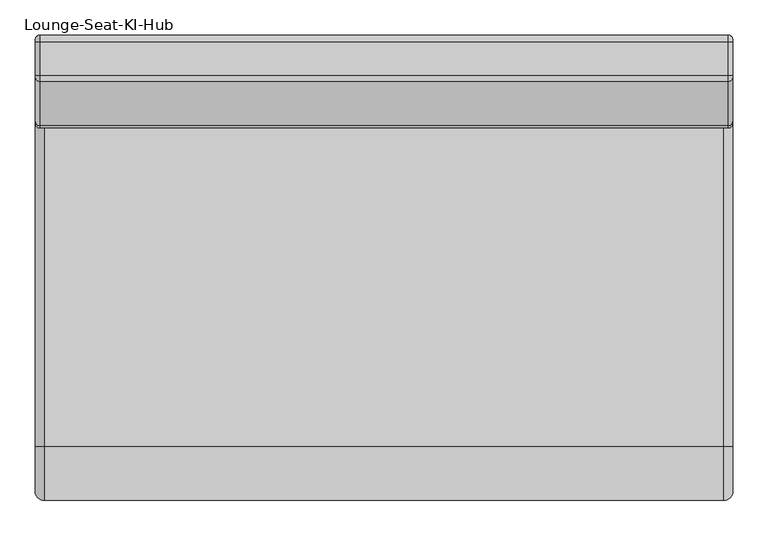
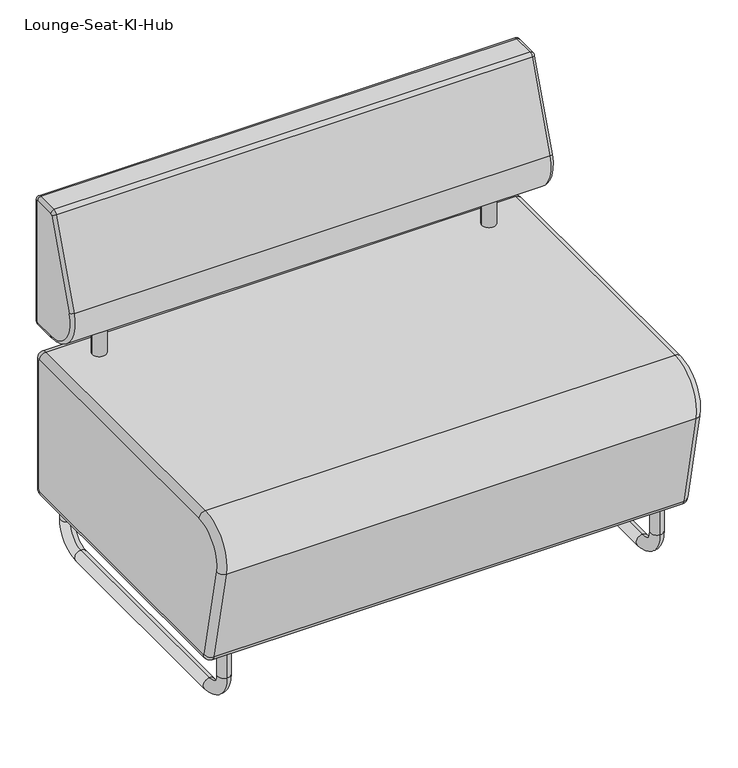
"""IFC4 building model written with IfcOpenShell, lengths in millimetres: furniture geometry."""

import ifcopenshell
import ifcopenshell.guid

model = None  # the IFC model being written
_history = None  # IfcOwnerHistory: only IFC2X3 demands one
_inside = {}  # id of a spatial element -> (the spatial element, [elements in it])
_under = {}  # id of a project, library or spatial element -> (it, [spatial elements below it])
_declared = {}  # id of a project -> (the project, [libraries it declares])
_typed = {}  # id of a type object -> (the type object, [elements of that type])
_made_of = {}  # id of a material, layer set ... -> (it, [elements and type objects made of it])


def new_model(schema):
    """Start an empty IFC model of exactly this schema.

    Asked for "IFC4X3", IfcOpenShell would pick the latest addendum, in which some entities
    have other attributes; the version numbers below select the first issue.
    IFC2X3 requires an IfcOwnerHistory on every rooted entity: one is made here for all.
    """
    global model, _history
    if schema == "IFC4X3":
        model = ifcopenshell.file(schema_version=(4, 3, 0, 0))
    else:
        model = ifcopenshell.file(schema=schema)
    _inside.clear()
    _under.clear()
    _declared.clear()
    _typed.clear()
    _made_of.clear()
    _history = None
    if model.schema == "IFC2X3":
        org = make("IfcOrganization", Name="unknown")
        user = make(
            "IfcPersonAndOrganization",
            ThePerson=make("IfcPerson", FamilyName="unknown"),
            TheOrganization=org,
        )
        app = make(
            "IfcApplication",
            ApplicationDeveloper=org,
            Version="unknown",
            ApplicationFullName="unknown",
            ApplicationIdentifier="unknown",
        )
        _history = make(
            "IfcOwnerHistory",
            OwningUser=user,
            OwningApplication=app,
            ChangeAction="ADDED",
            CreationDate=0,
        )
    return model


def make(cls, **values):
    """One entity of the class cls with the attributes given. An attribute that is None is left unset."""
    return model.create_entity(
        cls, **{name: value for name, value in values.items() if value is not None}
    )


def rooted(cls, **values):
    """An entity with a GlobalId (a new one), such as an element, a storey or a relation."""
    return make(cls, GlobalId=ifcopenshell.guid.new(), OwnerHistory=_history, **values)


def si_unit(unit_type, name, prefix=None):
    """IfcSIUnit, for example si_unit("LENGTHUNIT", "METRE", prefix="MILLI")."""
    return make("IfcSIUnit", UnitType=unit_type, Prefix=prefix, Name=name)


def assignment(units):
    """IfcUnitAssignment: the units of a project."""
    return None if units is None else make("IfcUnitAssignment", Units=units)


def point(xyz):
    """IfcCartesianPoint."""
    return None if xyz is None else make("IfcCartesianPoint", Coordinates=xyz)


def direction(xyz):
    """IfcDirection."""
    return None if xyz is None else make("IfcDirection", DirectionRatios=xyz)


def frame(location, z_axis=None, x_axis=None):
    """IfcAxis2Placement3D, a coordinate frame: its origin and axes. An axis left out is left unset."""
    return make(
        "IfcAxis2Placement3D",
        Location=point(location),
        Axis=direction(z_axis),
        RefDirection=direction(x_axis),
    )


def frame_2d(location, x_axis=None):
    """IfcAxis2Placement2D, a coordinate frame in the plane: its origin and x axis."""
    return make(
        "IfcAxis2Placement2D", Location=point(location), RefDirection=direction(x_axis)
    )


def origin():
    """The frame at (0, 0, 0) with its axes left unset."""
    return frame((0.0, 0.0, 0.0))


def place(relative_to, where):
    """IfcLocalPlacement: puts the frame where relative to a parent placement (None: the world)."""
    return make(
        "IfcLocalPlacement", PlacementRelTo=relative_to, RelativePlacement=where
    )


def context(
    kind, dimensions, precision=None, world=None, true_north=None, identifier=None
):
    """IfcGeometricRepresentationContext, for example the 3D "Model" context."""
    return make(
        "IfcGeometricRepresentationContext",
        ContextIdentifier=identifier,
        ContextType=kind,
        CoordinateSpaceDimension=dimensions,
        Precision=precision,
        WorldCoordinateSystem=world,
        TrueNorth=true_north,
    )


def project(units=None, contexts=None):
    """IfcProject with its units and contexts."""
    return rooted(
        "IfcProject",
        Name="project",
        RepresentationContexts=contexts,
        UnitsInContext=assignment(units),
    )


def spatial(cls, under=None, at=None, **own):
    """A site, building, storey or space (cls), placed at a placement, below another one or the project."""
    s = rooted(cls, ObjectPlacement=at, **own)
    if under is not None:
        _under.setdefault(under.id(), (under, []))[1].append(s)
    return s


def circle_curve(where, radius):
    """IfcCircle in the frame where."""
    return make("IfcCircle", Position=where, Radius=radius)


def ellipse_curve(where, semi_axis1, semi_axis2):
    """IfcEllipse in the frame where."""
    return make(
        "IfcEllipse", Position=where, SemiAxis1=semi_axis1, SemiAxis2=semi_axis2
    )


def trimmed(basis, trim1, trim2, sense, master):
    """IfcTrimmedCurve: the piece of a basis curve between two trims."""
    return make(
        "IfcTrimmedCurve",
        BasisCurve=basis,
        Trim1=trim1,
        Trim2=trim2,
        SenseAgreement=sense,
        MasterRepresentation=master,
    )


def segment(curve, same_sense, transition):
    """IfcCompositeCurveSegment."""
    return make(
        "IfcCompositeCurveSegment",
        Transition=transition,
        SameSense=same_sense,
        ParentCurve=curve,
    )


def composite_curve(segments, self_intersect=None):
    """IfcCompositeCurve: segments joined end to end."""
    return make("IfcCompositeCurve", Segments=segments, SelfIntersect=self_intersect)


def outline(outer, holes=None, kind="AREA"):
    """IfcArbitraryClosedProfileDef: a profile drawn as a closed curve; with holes, ...WithVoids."""
    if holes is None:
        return make("IfcArbitraryClosedProfileDef", ProfileType=kind, OuterCurve=outer)
    return make(
        "IfcArbitraryProfileDefWithVoids",
        ProfileType=kind,
        OuterCurve=outer,
        InnerCurves=holes,
    )


def extrude(swept, where, along, depth):
    """IfcExtrudedAreaSolid: the profile swept, set in the frame where, extruded along a direction by depth."""
    return make(
        "IfcExtrudedAreaSolid",
        SweptArea=swept,
        Position=where,
        ExtrudedDirection=direction(along),
        Depth=depth,
    )


def shape(context_of_items, identifier, shape_type, items):
    """IfcShapeRepresentation: the items that make up one representation, for example the "Body"."""
    return make(
        "IfcShapeRepresentation",
        ContextOfItems=context_of_items,
        RepresentationIdentifier=identifier,
        RepresentationType=shape_type,
        Items=items,
    )


def source(mapping_origin, context_of_items, identifier, shape_type, items):
    """IfcRepresentationMap: a shape defined once, which mapped items show again and again."""
    return make(
        "IfcRepresentationMap",
        MappingOrigin=mapping_origin,
        MappedRepresentation=shape(context_of_items, identifier, shape_type, items),
    )


def transform(
    local_origin,
    x_axis=None,
    y_axis=None,
    z_axis=None,
    scale=None,
    scale2=None,
    scale3=None,
    uniform=True,
):
    """IfcCartesianTransformationOperator3D, or its non-uniform kind. x_axis, y_axis, z_axis: its Axis1, 2, 3."""
    if uniform:
        return make(
            "IfcCartesianTransformationOperator3D",
            Axis1=direction(x_axis),
            Axis2=direction(y_axis),
            LocalOrigin=point(local_origin),
            Scale=scale,
            Axis3=direction(z_axis),
        )
    return make(
        "IfcCartesianTransformationOperator3DnonUniform",
        Axis1=direction(x_axis),
        Axis2=direction(y_axis),
        LocalOrigin=point(local_origin),
        Scale=scale,
        Axis3=direction(z_axis),
        Scale2=scale2,
        Scale3=scale3,
    )


def mapped(mapping_source, mapping_target):
    """IfcMappedItem: shows the shape of a source again, moved by a transform."""
    return make(
        "IfcMappedItem", MappingSource=mapping_source, MappingTarget=mapping_target
    )


def made_of(thing, what):
    """Note that an element or type object is made of a material, layer set ...; save() writes the relation."""
    if what is not None:
        _made_of.setdefault(what.id(), (what, []))[1].append(thing)
    return thing


def element(
    cls,
    number,
    at=None,
    inside=None,
    cuts=None,
    type_object=None,
    material=None,
    context=None,
    identifier="Body",
    shape_type=None,
    held_by="IfcProductDefinitionShape",
    body=None,
    shapes=None,
    **own,
):
    """One element of the class cls, such as IfcWall. Its Tag is "e" and its number.

    at: its placement. inside: the storey or other place that contains it. cuts: it is an
    opening in that element (IfcRelVoidsElement). A single representation is given by context,
    identifier, shape_type and body (its items); several are given by shapes. held_by: the class
    of the entity that holds the representations. save() writes the other relations.
    """
    e = rooted(cls, Tag="e%d" % number, ObjectPlacement=at, **own)
    if body is not None:
        shapes = [shape(context, identifier, shape_type, body)]
    if shapes is not None:
        e.Representation = make(held_by, Representations=shapes)
    if inside is not None:
        _inside.setdefault(inside.id(), (inside, []))[1].append(e)
    if cuts is not None:
        rooted(
            "IfcRelVoidsElement", RelatingBuildingElement=cuts, RelatedOpeningElement=e
        )
    if type_object is not None:
        _typed.setdefault(type_object.id(), (type_object, []))[1].append(e)
    return made_of(e, material)


def aggregate(whole, parts):
    """IfcRelAggregates: a whole, such as a stair, and the parts it consists of."""
    return rooted("IfcRelAggregates", RelatingObject=whole, RelatedObjects=parts)


def save(model, path):
    """Write the relations noted so far, then the file.

    IfcRelAggregates (storeys below a building ...), IfcRelContainedInSpatialStructure (elements
    in a storey), IfcRelDefinesByType, IfcRelAssociatesMaterial and IfcRelDeclares: one each for
    every whole, place, type object, material and project.
    """
    for whole, parts in _under.values():
        aggregate(whole, parts)
    for where, things in _inside.values():
        rooted(
            "IfcRelContainedInSpatialStructure",
            RelatedElements=things,
            RelatingStructure=where,
        )
    for kind, things in _typed.values():
        rooted("IfcRelDefinesByType", RelatedObjects=things, RelatingType=kind)
    for what, things in _made_of.values():
        rooted("IfcRelAssociatesMaterial", RelatedObjects=things, RelatingMaterial=what)
    for by, libraries in _declared.values():
        rooted("IfcRelDeclares", RelatingContext=by, RelatedDefinitions=libraries)
    model.write(path)


def plane_surface(at):
    """IfcPlane: the flat surface through the origin of the frame at, square to its z axis."""
    return make("IfcPlane", Position=at)


def cylinder_surface(at, radius):
    """IfcCylindricalSurface: all points at the distance radius from the z axis of the frame at."""
    return make("IfcCylindricalSurface", Position=at, Radius=radius)


def revolved_surface(curve, axis_point, axis_direction):
    """IfcSurfaceOfRevolution: the curve turned about the line through axis_point along axis_direction."""
    return make(
        "IfcSurfaceOfRevolution",
        SweptCurve=make("IfcArbitraryOpenProfileDef", ProfileType="CURVE", Curve=curve),
        AxisPosition=make("IfcAxis1Placement", Location=point(axis_point), Axis=direction(axis_direction)),
    )


def advanced_brep(points, edges, surfaces, faces):
    """IfcAdvancedBrep: a solid bounded by faces that lie on surfaces and meet in shared edges.

    An edge is (start, end): straight between two places in points (the first is 0);
    or (start, end, curve); or (start, end, curve, False) where it runs against its curve.
    A face is (place in surfaces, loops), or (place, loops, False) where it looks against
    its surface's normal. A loop lists edges by number (the first is 1), with a minus sign
    where the edge is run from its end to its start. The first loop is the outer one.
    """
    corners = [point(p) for p in points]
    vertices = [make("IfcVertexPoint", VertexGeometry=c) for c in corners]
    made = []
    for start, end, *more in edges:
        made.append(
            make(
                "IfcEdgeCurve",
                EdgeStart=vertices[start],
                EdgeEnd=vertices[end],
                EdgeGeometry=more[0] if more else make("IfcPolyline", Points=[corners[start], corners[end]]),
                SameSense=more[1] if len(more) > 1 else True,
            )
        )
    hull = []
    for where, loops, *sense in faces:
        bounds = []
        for j, loop in enumerate(loops):
            ring = [make("IfcOrientedEdge", EdgeElement=made[abs(k) - 1], Orientation=k > 0) for k in loop]
            bounds.append(
                make(
                    "IfcFaceOuterBound" if j == 0 else "IfcFaceBound",
                    Bound=make("IfcEdgeLoop", EdgeList=ring),
                    Orientation=True,
                )
            )
        hull.append(make("IfcAdvancedFace", Bounds=bounds, FaceSurface=surfaces[where], SameSense=sense[0] if sense else True))
    return make("IfcAdvancedBrep", Outer=make("IfcClosedShell", CfsFaces=hull))


def lounge_seat_ki_hub_0f860df9(model_context):
    return source(origin(), model_context, "Body", "SolidModel", [
        extrude(outline(composite_curve([segment(trimmed(circle_curve(frame_2d((400.05, 266.7)), 14.2875), [point((385.7625, 266.7))], [point((414.3375, 266.7))], False, "CARTESIAN"), True, "CONTINUOUS"), segment(trimmed(circle_curve(frame_2d((400.05, 266.7)), 14.2875), [point((414.3375, 266.7))], [point((385.7625, 266.7))], False, "CARTESIAN"), True, "CONTINUOUS")], self_intersect=False)), frame((0.0, 0.0, 431.8), z_axis=(0.0, 0.0, 1.0), x_axis=(1.0, 0.0, 0.0)), (0.0, 0.0, 1.0), 63.5),
        extrude(outline(composite_curve([segment(trimmed(circle_curve(frame_2d((-400.05, 266.7)), 14.2875), [point((-414.3375, 266.7))], [point((-385.7625, 266.7))], False, "CARTESIAN"), True, "CONTINUOUS"), segment(trimmed(circle_curve(frame_2d((-400.05, 266.7)), 14.2875), [point((-385.7625, 266.7))], [point((-414.3375, 266.7))], False, "CARTESIAN"), True, "CONTINUOUS")], self_intersect=False)), frame((0.0, 0.0, 431.8), z_axis=(0.0, 0.0, 1.0), x_axis=(1.0, 0.0, 0.0)), (0.0, 0.0, 1.0), 63.5),
        advanced_brep(
        [(495.3, 274.6375, 495.3), (495.3, 207.4933705, 584.4032693), (488.95, 201.3893588, 586.1535665), (488.95, 274.6375, 488.95), (-488.95, 274.6375, 488.95), (-488.95, 201.3893588, 586.1535665), (-495.3, 207.4933705, 584.4032693), (-495.3, 274.6375, 495.3), (488.95, 320.675, 488.95), (495.3, 320.675, 495.3), (-495.3, 320.675, 495.3), (-488.95, 320.675, 488.95), (488.95, 330.2, 498.475), (495.3, 323.85, 498.475), (-495.3, 323.85, 498.475), (-488.95, 330.2, 498.475), (488.95, 330.2, 758.825), (495.3, 323.85, 758.825), (-495.3, 323.85, 758.825), (-488.95, 330.2, 758.825), (488.95, 320.675, 768.35), (495.3, 320.675, 762.0), (-495.3, 320.675, 762.0), (-488.95, 320.675, 768.35), (488.95, 273.6171173, 768.35), (495.3, 273.6171173, 762.0), (-495.3, 273.6171173, 762.0), (-488.95, 273.6171173, 768.35), (488.95, 264.88726, 762.6348842), (495.3, 270.7071649, 760.0949614), (-495.3, 270.7071649, 760.0949614), (-488.95, 264.88726, 762.6348842)],
        [
            (0, 1, circle_curve(frame((495.3, 274.6375, 565.15), z_axis=(-1.0, 0.0, 0.0), x_axis=(0.0, -0.9612616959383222, 0.2756373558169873)), 69.85)),
            (1, 2, circle_curve(frame((488.95, 207.4933705, 584.4032693), z_axis=(0.0, -0.2756373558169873, -0.9612616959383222), x_axis=(0.0, 0.9612616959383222, -0.2756373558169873)), 6.35)),
            (2, 3, circle_curve(frame((488.95, 274.6375, 565.15), z_axis=(1.0, 0.0, 0.0), x_axis=(0.0, -0.9612616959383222, 0.2756373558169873)), 76.2)),
            (3, 0, circle_curve(frame((488.95, 274.6375, 495.3), z_axis=(0.0, -1.0, 0.0), x_axis=(0.0, 0.0, 1.0)), 6.35)),
            (4, 5, circle_curve(frame((-488.95, 274.6375, 565.15), z_axis=(-1.0, 0.0, 0.0), x_axis=(0.0, -0.9612616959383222, 0.2756373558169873)), 76.2)),
            (5, 6, circle_curve(frame((-488.95, 207.4933705, 584.4032693), z_axis=(0.0, -0.2756373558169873, -0.9612616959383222), x_axis=(0.0, 0.9612616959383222, -0.2756373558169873)), 6.35)),
            (6, 7, circle_curve(frame((-495.3, 274.6375, 565.15), z_axis=(1.0, 0.0, 0.0), x_axis=(0.0, -0.9612616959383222, 0.2756373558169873)), 69.85)),
            (7, 4, circle_curve(frame((-488.95, 274.6375, 495.3), z_axis=(0.0, -0.9999999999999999, 0.0), x_axis=(0.0, 0.0, 0.9999999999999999)), 6.35)),
            (2, 5),
            (4, 3),
            (3, 8),
            (8, 9, circle_curve(frame((488.95, 320.675, 495.3), z_axis=(0.0, -1.0, 0.0), x_axis=(0.0, 0.0, 1.0)), 6.35)),
            (9, 0),
            (7, 10),
            (10, 11, circle_curve(frame((-488.95, 320.675, 495.3), z_axis=(0.0, -1.0, 0.0), x_axis=(0.0, 0.0, 1.0)), 6.35)),
            (11, 4),
            (11, 8),
            (8, 12, circle_curve(frame((488.95, 320.675, 498.475), z_axis=(1.0, 0.0, 0.0), x_axis=(0.0, 0.0, -1.0)), 9.525)),
            (12, 13, circle_curve(frame((488.95, 323.85, 498.475), z_axis=(0.0, -1.3642707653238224e-12, -1.0), x_axis=(0.0, -1.0, 1.3642707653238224e-12)), 6.35)),
            (13, 9, circle_curve(frame((495.3, 320.675, 498.475), z_axis=(-1.0, 0.0, 0.0), x_axis=(0.0, 0.0, -1.0)), 3.175)),
            (10, 14, circle_curve(frame((-495.3, 320.675, 498.475), z_axis=(1.0, 0.0, 0.0), x_axis=(0.0, 0.0, -1.0)), 3.175)),
            (14, 15, circle_curve(frame((-488.95, 323.85, 498.475), z_axis=(0.0, 0.0, -1.0), x_axis=(0.0, -1.0, 0.0)), 6.35)),
            (15, 11, circle_curve(frame((-488.95, 320.675, 498.475), z_axis=(-1.0, 0.0, 0.0), x_axis=(0.0, 0.0, -1.0)), 9.525)),
            (15, 12),
            (12, 16),
            (16, 17, circle_curve(frame((488.95, 323.85, 758.825), z_axis=(0.0, 0.0, -1.0), x_axis=(0.0, -1.0, 0.0)), 6.35)),
            (17, 13),
            (14, 18),
            (18, 19, circle_curve(frame((-488.95, 323.85, 758.825), z_axis=(0.0, 0.0, -1.0), x_axis=(0.0, -1.0, 0.0)), 6.35)),
            (19, 15),
            (19, 16),
            (16, 20, circle_curve(frame((488.95, 320.675, 758.825), z_axis=(1.0, 0.0, 0.0), x_axis=(0.0, 1.0, 0.0)), 9.525)),
            (20, 21, circle_curve(frame((488.95, 320.675, 762.0), z_axis=(0.0, 1.0, 0.0), x_axis=(0.0, 0.0, -1.0)), 6.35)),
            (21, 17, circle_curve(frame((495.3, 320.675, 758.825), z_axis=(-1.0, 0.0, 0.0), x_axis=(0.0, 1.0, 0.0)), 3.175)),
            (18, 22, circle_curve(frame((-495.3, 320.675, 758.825), z_axis=(1.0, 0.0, 0.0), x_axis=(0.0, 1.0, 0.0)), 3.175)),
            (22, 23, circle_curve(frame((-488.95, 320.675, 762.0), z_axis=(0.0, 1.0, 0.0), x_axis=(0.0, 0.0, -1.0)), 6.35)),
            (23, 19, circle_curve(frame((-488.95, 320.675, 758.825), z_axis=(-1.0, 0.0, 0.0), x_axis=(0.0, 1.0, 0.0)), 9.525)),
            (23, 20),
            (20, 24),
            (24, 25, circle_curve(frame((488.95, 273.6171173, 762.0), z_axis=(0.0, 1.0, 0.0), x_axis=(0.0, 0.0, -1.0)), 6.35)),
            (25, 21),
            (22, 26),
            (26, 27, circle_curve(frame((-488.95, 273.6171173, 762.0), z_axis=(0.0, 1.0, 0.0), x_axis=(0.0, 0.0, -1.0)), 6.35)),
            (27, 23),
            (27, 24),
            (24, 28, circle_curve(frame((488.95, 273.6171173, 758.825), z_axis=(1.0, 0.0, 0.0), x_axis=(0.0, 0.0, 1.0)), 9.525)),
            (28, 29, circle_curve(frame((488.95, 270.7071649, 760.0949614), z_axis=(0.0, 0.39998784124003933, 0.9165204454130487), x_axis=(0.0, 0.9165204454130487, -0.39998784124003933)), 6.35)),
            (29, 25, circle_curve(frame((495.3, 273.6171173, 758.825), z_axis=(-1.0, 0.0, 0.0), x_axis=(0.0, 0.0, 1.0)), 3.175)),
            (26, 30, circle_curve(frame((-495.3, 273.6171173, 758.825), z_axis=(1.0, 0.0, 0.0), x_axis=(0.0, 0.0, 1.0)), 3.175)),
            (30, 31, circle_curve(frame((-488.95, 270.7071649, 760.0949614), z_axis=(0.0, 0.399987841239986, 0.9165204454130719), x_axis=(0.0, 0.9165204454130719, -0.399987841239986)), 6.35)),
            (31, 27, circle_curve(frame((-488.95, 273.6171173, 758.825), z_axis=(-1.0, 0.0, 0.0), x_axis=(0.0, 0.0, 1.0)), 9.525)),
            (31, 28),
            (1, 29, circle_curve(frame((495.3, 1565.6359892, 194.9621402), z_axis=(-1.0, 0.0, 0.0), x_axis=(0.0, -0.9165204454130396, 0.39998784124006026)), 1412.875)),
            (28, 2, circle_curve(frame((488.95, 1565.6359892, 194.9621402), z_axis=(1.0, 0.0, 0.0), x_axis=(0.0, -0.9165204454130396, 0.39998784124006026)), 1419.225)),
            (6, 30, circle_curve(frame((-495.3, 1565.6359892, 194.9621402), z_axis=(-1.0, 0.0, 0.0), x_axis=(0.0, -0.9165204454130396, 0.39998784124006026)), 1412.875)),
            (5, 31, circle_curve(frame((-488.95, 1565.6359892, 194.9621402), z_axis=(-1.0, 0.0, 0.0), x_axis=(0.0, -0.9165204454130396, 0.39998784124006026)), 1419.225)),
        ],
        [
            revolved_surface(trimmed(ellipse_curve(frame((488.95, 207.4933705, 584.4032693), z_axis=(0.0, 0.2756373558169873, 0.9612616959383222), x_axis=(0.0, 0.9612616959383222, -0.2756373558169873)), 6.35, 6.35), [point((488.95, 201.3893588, 586.1535665))], [point((495.3, 207.4933705, 584.4032693))], True, "CARTESIAN"), (0.0, 274.6375, 565.15), (1.0, 0.0, 0.0)),
            revolved_surface(trimmed(ellipse_curve(frame((-488.95, 207.4933705, 584.4032693), z_axis=(0.0, 0.2756373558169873, 0.9612616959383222), x_axis=(0.0, 0.9612616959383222, -0.2756373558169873)), 6.35, 6.35), [point((-495.3, 207.4933705, 584.4032693))], [point((-488.95, 201.3893588, 586.1535665))], True, "CARTESIAN"), (0.0, 274.6375, 565.15), (1.0, 0.0, 0.0)),
            cylinder_surface(frame((0.0, 274.6375, 565.15), z_axis=(1.0, 0.0, 0.0), x_axis=(0.0, -0.9612616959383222, 0.2756373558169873)), 76.2),
            cylinder_surface(frame((488.95, 274.6375, 495.3), z_axis=(0.0, -1.0, 0.0), x_axis=(0.0, 0.0, 1.0)), 6.35),
            cylinder_surface(frame((-488.95, 274.6375, 495.3), z_axis=(0.0, -1.0, 0.0), x_axis=(0.0, 0.0, 1.0)), 6.35),
            plane_surface(frame((-488.95, 274.6375, 488.95), z_axis=(0.0, 0.0, -1.0), x_axis=(0.0, 1.0, 0.0))),
            revolved_surface(trimmed(ellipse_curve(frame((488.95, 320.675, 495.3), z_axis=(0.0, -1.0, 0.0), x_axis=(0.0, 0.0, 1.0)), 6.35, 6.35), [point((488.95, 320.675, 488.95))], [point((495.3, 320.675, 495.3))], True, "CARTESIAN"), (0.0, 320.675, 498.475), (1.0, 0.0, 0.0)),
            revolved_surface(trimmed(ellipse_curve(frame((-488.95, 320.675, 495.3), z_axis=(0.0, -1.0, 0.0), x_axis=(0.0, 0.0, 1.0)), 6.35, 6.35), [point((-495.3, 320.675, 495.3))], [point((-488.95, 320.675, 488.95))], True, "CARTESIAN"), (0.0, 320.675, 498.475), (1.0, 0.0, 0.0)),
            cylinder_surface(frame((0.0, 320.675, 498.475), z_axis=(1.0, 0.0, 0.0), x_axis=(0.0, 0.0, -1.0)), 9.525),
            cylinder_surface(frame((488.95, 323.85, 498.475), z_axis=(0.0, 0.0, -1.0), x_axis=(0.0, -1.0, 0.0)), 6.35),
            cylinder_surface(frame((-488.95, 323.85, 498.475), z_axis=(0.0, 0.0, -1.0), x_axis=(0.0, -1.0, 0.0)), 6.35),
            plane_surface(frame((-488.95, 330.2, 498.475), z_axis=(0.0, 1.0, 0.0), x_axis=(0.0, 0.0, 1.0))),
            revolved_surface(trimmed(ellipse_curve(frame((488.95, 323.85, 758.825), z_axis=(0.0, 0.0, -1.0), x_axis=(0.0, -1.0, 0.0)), 6.35, 6.35), [point((488.95, 330.2, 758.825))], [point((495.3, 323.85, 758.825))], True, "CARTESIAN"), (0.0, 320.675, 758.825), (1.0, 0.0, 0.0)),
            revolved_surface(trimmed(ellipse_curve(frame((-488.95, 323.85, 758.825), z_axis=(0.0, 0.0, -1.0), x_axis=(0.0, -1.0, 0.0)), 6.35, 6.35), [point((-495.3, 323.85, 758.825))], [point((-488.95, 330.2, 758.825))], True, "CARTESIAN"), (0.0, 320.675, 758.825), (1.0, 0.0, 0.0)),
            cylinder_surface(frame((0.0, 320.675, 758.825), z_axis=(1.0, 0.0, 0.0), x_axis=(0.0, 1.0, 0.0)), 9.525),
            cylinder_surface(frame((488.95, 320.675, 762.0), z_axis=(0.0, 1.0, 0.0), x_axis=(0.0, 0.0, -1.0)), 6.35),
            cylinder_surface(frame((-488.95, 320.675, 762.0), z_axis=(0.0, 1.0, 0.0), x_axis=(0.0, 0.0, -1.0)), 6.35),
            plane_surface(frame((-488.95, 320.675, 768.35), z_axis=(0.0, 0.0, 1.0), x_axis=(0.0, -1.0, 0.0))),
            revolved_surface(trimmed(ellipse_curve(frame((488.95, 273.6171173, 762.0), z_axis=(0.0, 1.0, 0.0), x_axis=(0.0, 0.0, -1.0)), 6.35, 6.35), [point((488.95, 273.6171173, 768.35))], [point((495.3, 273.6171173, 762.0))], True, "CARTESIAN"), (0.0, 273.6171173, 758.825), (1.0, 0.0, 0.0)),
            revolved_surface(trimmed(ellipse_curve(frame((-488.95, 273.6171173, 762.0), z_axis=(0.0, 1.0, 0.0), x_axis=(0.0, 0.0, -1.0)), 6.35, 6.35), [point((-495.3, 273.6171173, 762.0))], [point((-488.95, 273.6171173, 768.35))], True, "CARTESIAN"), (0.0, 273.6171173, 758.825), (1.0, 0.0, 0.0)),
            cylinder_surface(frame((0.0, 273.6171173, 758.825), z_axis=(1.0, 0.0, 0.0), x_axis=(0.0, 0.0, 1.0)), 9.525),
            revolved_surface(trimmed(ellipse_curve(frame((488.95, 270.7071649, 760.0949614), z_axis=(0.0, 0.39998784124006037, 0.9165204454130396), x_axis=(0.0, 0.9165204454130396, -0.39998784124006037)), 6.35, 6.35), [point((488.95, 264.88726, 762.6348842))], [point((495.3, 270.7071649, 760.0949614))], True, "CARTESIAN"), (0.0, 1565.6359892, 194.9621402), (1.0, 0.0, 0.0)),
            plane_surface(frame((495.3, 1565.6359892, 194.9621402), z_axis=(1.0, 0.0, 0.0), x_axis=(0.0, -0.9165204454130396, 0.39998784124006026))),
            plane_surface(frame((-495.3, 1565.6359892, 194.9621402), z_axis=(-1.0, 0.0, 0.0), x_axis=(0.0, -0.9165204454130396, 0.39998784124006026))),
            revolved_surface(trimmed(ellipse_curve(frame((-488.95, 270.7071649, 760.0949614), z_axis=(0.0, 0.39998784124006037, 0.9165204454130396), x_axis=(0.0, 0.9165204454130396, -0.39998784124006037)), 6.35, 6.35), [point((-495.3, 270.7071649, 760.0949614))], [point((-488.95, 264.88726, 762.6348842))], True, "CARTESIAN"), (0.0, 1565.6359892, 194.9621402), (1.0, 0.0, 0.0)),
            cylinder_surface(frame((0.0, 1565.6359892, 194.9621402), z_axis=(1.0, 0.0, 0.0), x_axis=(0.0, -0.9165204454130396, 0.39998784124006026)), 1419.225),
        ],
        [
            (0, [[1, 2, 3, 4]]),
            (1, [[5, 6, 7, 8]]),
            (2, [[-3, 9, -5, 10]]),
            (3, [[-4, 11, 12, 13]]),
            (4, [[-8, 14, 15, 16]]),
            (5, [[-10, -16, 17, -11]]),
            (6, [[-12, 18, 19, 20]]),
            (7, [[-15, 21, 22, 23]]),
            (8, [[-17, -23, 24, -18]]),
            (9, [[-19, 25, 26, 27]]),
            (10, [[-22, 28, 29, 30]]),
            (11, [[-24, -30, 31, -25]]),
            (12, [[-26, 32, 33, 34]]),
            (13, [[-29, 35, 36, 37]]),
            (14, [[-31, -37, 38, -32]]),
            (15, [[-33, 39, 40, 41]]),
            (16, [[-36, 42, 43, 44]]),
            (17, [[-38, -44, 45, -39]]),
            (18, [[-40, 46, 47, 48]]),
            (19, [[-43, 49, 50, 51]]),
            (20, [[-45, -51, 52, -46]]),
            (21, [[-2, 53, -47, 54]]),
            (22, [[-1, -13, -20, -27, -34, -41, -48, -53]]),
            (23, [[-7, 55, -49, -42, -35, -28, -21, -14]]),
            (24, [[-6, 56, -50, -55]]),
            (25, [[-9, -54, -52, -56]]),
        ],
    ),
        advanced_brep(
        [(444.5, -266.7, 120.65), (444.5, -241.3, 120.65), (444.5, -266.7, 63.5), (444.5, -241.3, 63.5), (444.5, -203.2, 25.4), (444.5, -203.2, 0.0), (444.5, 254.0, 0.0), (444.5, 254.0, 25.4), (444.5, 292.1, 63.5), (444.5, 317.5, 63.5), (444.5, 317.5, 120.65), (444.5, 292.1, 120.65)],
        [
            (0, 1, circle_curve(frame((444.5, -254.0, 120.65), z_axis=(0.0, 0.0, 1.0), x_axis=(0.0, 1.0, 0.0)), 12.7)),
            (1, 0, circle_curve(frame((444.5, -254.0, 120.65), z_axis=(0.0, 0.0, 1.0), x_axis=(0.0, 1.0, 0.0)), 12.7)),
            (0, 2),
            (2, 3, circle_curve(frame((444.5, -254.0, 63.5), z_axis=(0.0, 0.0, 1.0), x_axis=(0.0, 1.0, 0.0)), 12.7)),
            (3, 1),
            (3, 2, circle_curve(frame((444.5, -254.0, 63.5), z_axis=(0.0, 0.0, 1.0), x_axis=(0.0, 1.0, 0.0)), 12.7)),
            (4, 3, circle_curve(frame((444.5, -203.2, 63.5), z_axis=(-1.0, 0.0, 0.0), x_axis=(0.0, -1.0, 0.0)), 38.1)),
            (2, 5, circle_curve(frame((444.5, -203.2, 63.5), z_axis=(1.0, 0.0, 0.0), x_axis=(0.0, -1.0, 0.0)), 63.5)),
            (5, 4, circle_curve(frame((444.5, -203.2, 12.7), z_axis=(0.0, -1.0, 0.0), x_axis=(0.0, 0.0, 1.0)), 12.7)),
            (4, 5, circle_curve(frame((444.5, -203.2, 12.7), z_axis=(0.0, -1.0, 0.0), x_axis=(0.0, 0.0, 1.0)), 12.7)),
            (5, 6),
            (6, 7, circle_curve(frame((444.5, 254.0, 12.7), z_axis=(0.0, -1.0, 0.0), x_axis=(0.0, 0.0, 1.0)), 12.7)),
            (7, 4),
            (7, 6, circle_curve(frame((444.5, 254.0, 12.7), z_axis=(0.0, -1.0, 0.0), x_axis=(0.0, 0.0, 1.0)), 12.7)),
            (8, 7, circle_curve(frame((444.5, 254.0, 63.5), z_axis=(-1.0, 0.0, 0.0), x_axis=(0.0, 0.0, -1.0)), 38.1)),
            (6, 9, circle_curve(frame((444.5, 254.0, 63.5), z_axis=(1.0, 0.0, 0.0), x_axis=(0.0, 0.0, -1.0)), 63.5)),
            (9, 8, circle_curve(frame((444.5, 304.8, 63.5), z_axis=(0.0, 0.0, -1.0), x_axis=(0.0, -1.0, 0.0)), 12.7)),
            (8, 9, circle_curve(frame((444.5, 304.8, 63.5), z_axis=(0.0, 0.0, -1.0), x_axis=(0.0, -1.0, 0.0)), 12.7)),
            (10, 11, circle_curve(frame((444.5, 304.8, 120.65), z_axis=(0.0, 0.0, 1.0), x_axis=(0.0, -1.0, 0.0)), 12.7)),
            (11, 10, circle_curve(frame((444.5, 304.8, 120.65), z_axis=(0.0, 0.0, 1.0), x_axis=(0.0, -1.0, 0.0)), 12.7)),
            (9, 10),
            (11, 8),
        ],
        [
            plane_surface(frame((444.5, -254.0, 120.65), z_axis=(0.0, 0.0, 1.0), x_axis=(1.0, 0.0, 0.0))),
            cylinder_surface(frame((444.5, -254.0, 120.65), z_axis=(0.0, 0.0, 1.0), x_axis=(0.0, 1.0, 0.0)), 12.7),
            revolved_surface(trimmed(ellipse_curve(frame((444.5, -254.0, 63.5), z_axis=(0.0, 0.0, 1.0), x_axis=(0.0, 1.0, 0.0)), 12.7, 12.7), [point((444.5, -266.7, 63.5))], [point((444.5, -241.3, 63.5))], True, "CARTESIAN"), (444.5, -203.2, 63.5), (1.0, 0.0, 0.0)),
            revolved_surface(trimmed(ellipse_curve(frame((444.5, -254.0, 63.5), z_axis=(0.0, 0.0, 1.0), x_axis=(0.0, 1.0, 0.0)), 12.7, 12.7), [point((444.5, -241.3, 63.5))], [point((444.5, -266.7, 63.5))], True, "CARTESIAN"), (444.5, -203.2, 63.5), (1.0, 0.0, 0.0)),
            cylinder_surface(frame((444.5, -203.2, 12.7), z_axis=(0.0, -1.0, 0.0), x_axis=(0.0, 0.0, 1.0)), 12.7),
            revolved_surface(trimmed(ellipse_curve(frame((444.5, 254.0, 12.7), z_axis=(0.0, -1.0, 0.0), x_axis=(0.0, 0.0, 1.0)), 12.7, 12.7), [point((444.5, 254.0, 0.0))], [point((444.5, 254.0, 25.4))], True, "CARTESIAN"), (444.5, 254.0, 63.5), (1.0, 0.0, 0.0)),
            revolved_surface(trimmed(ellipse_curve(frame((444.5, 254.0, 12.7), z_axis=(0.0, -1.0, 0.0), x_axis=(0.0, 0.0, 1.0)), 12.7, 12.7), [point((444.5, 254.0, 25.4))], [point((444.5, 254.0, 0.0))], True, "CARTESIAN"), (444.5, 254.0, 63.5), (1.0, 0.0, 0.0)),
            plane_surface(frame((444.5, 304.8, 120.65), z_axis=(0.0, 0.0, 1.0), x_axis=(1.0, 0.0, 0.0))),
            cylinder_surface(frame((444.5, 304.8, 63.5), z_axis=(0.0, 0.0, -1.0), x_axis=(0.0, -1.0, 0.0)), 12.7),
        ],
        [
            (0, [[1, 2]]),
            (1, [[-1, 3, 4, 5]]),
            (1, [[-2, -5, 6, -3]]),
            (2, [[7, -4, 8, 9]]),
            (3, [[-8, -6, -7, 10]]),
            (4, [[-9, 11, 12, 13]]),
            (4, [[-10, -13, 14, -11]]),
            (5, [[15, -12, 16, 17]]),
            (6, [[-16, -14, -15, 18]]),
            (7, [[19, 20]]),
            (8, [[-17, 21, -20, 22]]),
            (8, [[-18, -22, -19, -21]]),
        ],
    ),
        advanced_brep(
        [(-444.5, -266.7, 120.65), (-444.5, -241.3, 120.65), (-444.5, -266.7, 63.5), (-444.5, -241.3, 63.5), (-444.5, -203.2, 25.4), (-444.5, -203.2, 0.0), (-444.5, 254.0, 0.0), (-444.5, 254.0, 25.4), (-444.5, 292.1, 63.5), (-444.5, 317.5, 63.5), (-444.5, 317.5, 120.65), (-444.5, 292.1, 120.65)],
        [
            (0, 1, circle_curve(frame((-444.5, -254.0, 120.65), z_axis=(0.0, 0.0, 1.0), x_axis=(0.0, 1.0, 0.0)), 12.7)),
            (1, 0, circle_curve(frame((-444.5, -254.0, 120.65), z_axis=(0.0, 0.0, 1.0), x_axis=(0.0, 1.0, 0.0)), 12.7)),
            (0, 2),
            (2, 3, circle_curve(frame((-444.5, -254.0, 63.5), z_axis=(0.0, 0.0, 1.0), x_axis=(0.0, 1.0, 0.0)), 12.7)),
            (3, 1),
            (3, 2, circle_curve(frame((-444.5, -254.0, 63.5), z_axis=(0.0, 0.0, 1.0), x_axis=(0.0, 1.0, 0.0)), 12.7)),
            (4, 3, circle_curve(frame((-444.5, -203.2, 63.5), z_axis=(-1.0, 0.0, 0.0), x_axis=(0.0, -1.0, 0.0)), 38.1)),
            (2, 5, circle_curve(frame((-444.5, -203.2, 63.5), z_axis=(1.0, 0.0, 0.0), x_axis=(0.0, -1.0, 0.0)), 63.5)),
            (5, 4, circle_curve(frame((-444.5, -203.2, 12.7), z_axis=(0.0, -1.0, 0.0), x_axis=(0.0, 0.0, 1.0)), 12.7)),
            (4, 5, circle_curve(frame((-444.5, -203.2, 12.7), z_axis=(0.0, -1.0, 0.0), x_axis=(0.0, 0.0, 1.0)), 12.7)),
            (5, 6),
            (6, 7, circle_curve(frame((-444.5, 254.0, 12.7), z_axis=(0.0, -1.0, 0.0), x_axis=(0.0, 0.0, 1.0)), 12.7)),
            (7, 4),
            (7, 6, circle_curve(frame((-444.5, 254.0, 12.7), z_axis=(0.0, -1.0, 0.0), x_axis=(0.0, 0.0, 1.0)), 12.7)),
            (8, 7, circle_curve(frame((-444.5, 254.0, 63.5), z_axis=(-1.0, 0.0, 0.0), x_axis=(0.0, 0.0, -1.0)), 38.1)),
            (6, 9, circle_curve(frame((-444.5, 254.0, 63.5), z_axis=(1.0, 0.0, 0.0), x_axis=(0.0, 0.0, -1.0)), 63.5)),
            (9, 8, circle_curve(frame((-444.5, 304.8, 63.5), z_axis=(0.0, 0.0, -1.0), x_axis=(0.0, -1.0, 0.0)), 12.7)),
            (8, 9, circle_curve(frame((-444.5, 304.8, 63.5), z_axis=(0.0, 0.0, -1.0), x_axis=(0.0, -1.0, 0.0)), 12.7)),
            (10, 11, circle_curve(frame((-444.5, 304.8, 120.65), z_axis=(0.0, 0.0, 1.0), x_axis=(0.0, -1.0, 0.0)), 12.7)),
            (11, 10, circle_curve(frame((-444.5, 304.8, 120.65), z_axis=(0.0, 0.0, 1.0), x_axis=(0.0, -1.0, 0.0)), 12.7)),
            (9, 10),
            (11, 8),
        ],
        [
            plane_surface(frame((-444.5, -254.0, 120.65), z_axis=(0.0, 0.0, 1.0), x_axis=(1.0, 0.0, 0.0))),
            cylinder_surface(frame((-444.5, -254.0, 120.65), z_axis=(0.0, 0.0, 1.0), x_axis=(0.0, 1.0, 0.0)), 12.7),
            revolved_surface(trimmed(ellipse_curve(frame((-444.5, -254.0, 63.5), z_axis=(0.0, 0.0, 1.0), x_axis=(0.0, 1.0, 0.0)), 12.7, 12.7), [point((-444.5, -266.7, 63.5))], [point((-444.5, -241.3, 63.5))], True, "CARTESIAN"), (-444.5, -203.2, 63.5), (1.0, 0.0, 0.0)),
            revolved_surface(trimmed(ellipse_curve(frame((-444.5, -254.0, 63.5), z_axis=(0.0, 0.0, 1.0), x_axis=(0.0, 1.0, 0.0)), 12.7, 12.7), [point((-444.5, -241.3, 63.5))], [point((-444.5, -266.7, 63.5))], True, "CARTESIAN"), (-444.5, -203.2, 63.5), (1.0, 0.0, 0.0)),
            cylinder_surface(frame((-444.5, -203.2, 12.7), z_axis=(0.0, -1.0, 0.0), x_axis=(0.0, 0.0, 1.0)), 12.7),
            revolved_surface(trimmed(ellipse_curve(frame((-444.5, 254.0, 12.7), z_axis=(0.0, -1.0, 0.0), x_axis=(0.0, 0.0, 1.0)), 12.7, 12.7), [point((-444.5, 254.0, 0.0))], [point((-444.5, 254.0, 25.4))], True, "CARTESIAN"), (-444.5, 254.0, 63.5), (1.0, 0.0, 0.0)),
            revolved_surface(trimmed(ellipse_curve(frame((-444.5, 254.0, 12.7), z_axis=(0.0, -1.0, 0.0), x_axis=(0.0, 0.0, 1.0)), 12.7, 12.7), [point((-444.5, 254.0, 25.4))], [point((-444.5, 254.0, 0.0))], True, "CARTESIAN"), (-444.5, 254.0, 63.5), (1.0, 0.0, 0.0)),
            plane_surface(frame((-444.5, 304.8, 120.65), z_axis=(0.0, 0.0, 1.0), x_axis=(1.0, 0.0, 0.0))),
            cylinder_surface(frame((-444.5, 304.8, 63.5), z_axis=(0.0, 0.0, -1.0), x_axis=(0.0, -1.0, 0.0)), 12.7),
        ],
        [
            (0, [[1, 2]]),
            (1, [[-1, 3, 4, 5]]),
            (1, [[-2, -5, 6, -3]]),
            (2, [[7, -4, 8, 9]]),
            (3, [[-8, -6, -7, 10]]),
            (4, [[-9, 11, 12, 13]]),
            (4, [[-10, -13, 14, -11]]),
            (5, [[15, -12, 16, 17]]),
            (6, [[-16, -14, -15, 18]]),
            (7, [[19, 20]]),
            (8, [[-17, 21, -20, 22]]),
            (8, [[-18, -22, -19, -21]]),
        ],
    ),
        advanced_brep(
        [(495.3, -316.1123726, 342.3976076), (495.3, -254.0, 419.1), (482.6, -254.0, 431.8), (482.6, -328.5348472, 339.7571292), (-482.6, -328.5348472, 339.7571292), (-482.6, -254.0, 431.8), (-495.3, -254.0, 419.1), (-495.3, -316.1123726, 342.3976076), (482.6, -284.6349608, 133.2244019), (495.3, -272.2124863, 135.8648804), (-495.3, -272.2124863, 135.8648804), (-482.6, -284.6349608, 133.2244019), (482.6, -269.1068676, 120.65), (495.3, -269.1068676, 133.35), (-495.3, -269.1068676, 133.35), (-482.6, -269.1068676, 120.65), (482.6, 314.325, 120.65), (495.3, 314.325, 133.35), (-495.3, 314.325, 133.35), (-482.6, 314.325, 120.65), (482.6, 330.2, 136.525), (495.3, 317.5, 136.525), (-495.3, 317.5, 136.525), (-482.6, 330.2, 136.525), (482.6, 330.2, 415.925), (495.3, 317.5, 415.925), (-495.3, 317.5, 415.925), (-482.6, 330.2, 415.925), (482.6, 314.325, 431.8), (495.3, 314.325, 419.1), (-495.3, 314.325, 419.1), (-482.6, 314.325, 431.8)],
        [
            (0, 1, circle_curve(frame((495.3, -254.0, 355.6), z_axis=(-1.0, 0.0, 0.0), x_axis=(0.0, 0.0, 1.0)), 63.5)),
            (1, 2, circle_curve(frame((482.6, -254.0, 419.1), z_axis=(0.0, -1.0, 0.0), x_axis=(0.0, 0.0, -1.0)), 12.7)),
            (2, 3, circle_curve(frame((482.6, -254.0, 355.6), z_axis=(1.0, 0.0, 0.0), x_axis=(0.0, 0.0, 1.0)), 76.2)),
            (3, 0, circle_curve(frame((482.6, -316.1123726, 342.3976076), z_axis=(0.0, -0.20791169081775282, 0.978147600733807), x_axis=(0.0, 0.978147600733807, 0.20791169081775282)), 12.7)),
            (4, 5, circle_curve(frame((-482.6, -254.0, 355.6), z_axis=(-1.0, 0.0, 0.0), x_axis=(0.0, 0.0, 1.0)), 76.2)),
            (5, 6, circle_curve(frame((-482.6, -254.0, 419.1), z_axis=(0.0, -1.0, 0.0), x_axis=(0.0, 0.0, -1.0)), 12.7)),
            (6, 7, circle_curve(frame((-495.3, -254.0, 355.6), z_axis=(1.0, 0.0, 0.0), x_axis=(0.0, 0.0, 1.0)), 63.5)),
            (7, 4, circle_curve(frame((-482.6, -316.1123726, 342.3976076), z_axis=(0.0, -0.20791169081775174, 0.9781476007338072), x_axis=(0.0, 0.9781476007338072, 0.20791169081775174)), 12.7)),
            (2, 5),
            (4, 3),
            (3, 8),
            (8, 9, circle_curve(frame((482.6, -272.2124863, 135.8648804), z_axis=(0.0, -0.2079116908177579, 0.978147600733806), x_axis=(0.0, 0.978147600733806, 0.2079116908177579)), 12.7)),
            (9, 0),
            (7, 10),
            (10, 11, circle_curve(frame((-482.6, -272.2124863, 135.8648804), z_axis=(0.0, -0.2079116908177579, 0.978147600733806), x_axis=(0.0, 0.978147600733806, 0.2079116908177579)), 12.7)),
            (11, 4),
            (11, 8),
            (8, 12, circle_curve(frame((482.6, -269.1068676, 136.525), z_axis=(1.0, 0.0, 0.0), x_axis=(0.0, -0.9781476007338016, -0.2079116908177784)), 15.875)),
            (12, 13, circle_curve(frame((482.6, -269.1068676, 133.35), z_axis=(0.0, -1.0, 0.0), x_axis=(0.0, 0.0, 1.0)), 12.7)),
            (13, 9, circle_curve(frame((495.3, -269.1068676, 136.525), z_axis=(-1.0, 0.0, 0.0), x_axis=(0.0, -0.9781476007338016, -0.2079116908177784)), 3.175)),
            (10, 14, circle_curve(frame((-495.3, -269.1068676, 136.525), z_axis=(1.0, 0.0, 0.0), x_axis=(0.0, -0.9781476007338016, -0.2079116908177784)), 3.175)),
            (14, 15, circle_curve(frame((-482.6, -269.1068676, 133.35), z_axis=(0.0, -0.9999999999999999, 0.0), x_axis=(0.0, 0.0, 0.9999999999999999)), 12.7)),
            (15, 11, circle_curve(frame((-482.6, -269.1068676, 136.525), z_axis=(-1.0, 0.0, 0.0), x_axis=(0.0, -0.9781476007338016, -0.2079116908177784)), 15.875)),
            (15, 12),
            (12, 16),
            (16, 17, circle_curve(frame((482.6, 314.325, 133.35), z_axis=(0.0, -1.0, 0.0), x_axis=(0.0, 0.0, 1.0)), 12.7)),
            (17, 13),
            (14, 18),
            (18, 19, circle_curve(frame((-482.6, 314.325, 133.35), z_axis=(0.0, -1.0, 0.0), x_axis=(0.0, 0.0, 1.0)), 12.7)),
            (19, 15),
            (19, 16),
            (16, 20, circle_curve(frame((482.6, 314.325, 136.525), z_axis=(1.0, 0.0, 0.0), x_axis=(0.0, 0.0, -1.0)), 15.875)),
            (20, 21, circle_curve(frame((482.6, 317.5, 136.525), z_axis=(0.0, 0.0, -1.0), x_axis=(0.0, -1.0, 0.0)), 12.7)),
            (21, 17, circle_curve(frame((495.3, 314.325, 136.525), z_axis=(-1.0, 0.0, 0.0), x_axis=(0.0, 0.0, -1.0)), 3.175)),
            (18, 22, circle_curve(frame((-495.3, 314.325, 136.525), z_axis=(1.0, 0.0, 0.0), x_axis=(0.0, 0.0, -1.0)), 3.175)),
            (22, 23, circle_curve(frame((-482.6, 317.5, 136.525), z_axis=(0.0, 0.0, -1.0), x_axis=(0.0, -1.0, 0.0)), 12.7)),
            (23, 19, circle_curve(frame((-482.6, 314.325, 136.525), z_axis=(-1.0, 0.0, 0.0), x_axis=(0.0, 0.0, -1.0)), 15.875)),
            (23, 20),
            (20, 24),
            (24, 25, circle_curve(frame((482.6, 317.5, 415.925), z_axis=(0.0, 0.0, -1.0), x_axis=(0.0, -1.0, 0.0)), 12.7)),
            (25, 21),
            (22, 26),
            (26, 27, circle_curve(frame((-482.6, 317.5, 415.925), z_axis=(0.0, 0.0, -1.0), x_axis=(0.0, -1.0, 0.0)), 12.7)),
            (27, 23),
            (27, 24),
            (24, 28, circle_curve(frame((482.6, 314.325, 415.925), z_axis=(1.0, 0.0, 0.0), x_axis=(0.0, 1.0, 0.0)), 15.875)),
            (28, 29, circle_curve(frame((482.6, 314.325, 419.1), z_axis=(0.0, 1.0, 0.0), x_axis=(0.0, 0.0, -1.0)), 12.7)),
            (29, 25, circle_curve(frame((495.3, 314.325, 415.925), z_axis=(-1.0, 0.0, 0.0), x_axis=(0.0, 1.0, 0.0)), 3.175)),
            (26, 30, circle_curve(frame((-495.3, 314.325, 415.925), z_axis=(1.0, 0.0, 0.0), x_axis=(0.0, 1.0, 0.0)), 3.175)),
            (30, 31, circle_curve(frame((-482.6, 314.325, 419.1), z_axis=(0.0, 1.0, 0.0), x_axis=(0.0, 0.0, -1.0)), 12.7)),
            (31, 27, circle_curve(frame((-482.6, 314.325, 415.925), z_axis=(-1.0, 0.0, 0.0), x_axis=(0.0, 1.0, 0.0)), 15.875)),
            (31, 28),
            (1, 29),
            (28, 2),
            (6, 30),
            (5, 31),
        ],
        [
            revolved_surface(trimmed(ellipse_curve(frame((482.6, -254.0, 419.1), z_axis=(0.0, 1.0, 0.0), x_axis=(0.0, 0.0, -1.0)), 12.7, 12.7), [point((482.6, -254.0, 431.8))], [point((495.3, -254.0, 419.1))], True, "CARTESIAN"), (0.0, -254.0, 355.6), (1.0, 0.0, 0.0)),
            revolved_surface(trimmed(ellipse_curve(frame((-482.6, -254.0, 419.1), z_axis=(0.0, 1.0, 0.0), x_axis=(0.0, 0.0, -1.0)), 12.7, 12.7), [point((-495.3, -254.0, 419.1))], [point((-482.6, -254.0, 431.8))], True, "CARTESIAN"), (0.0, -254.0, 355.6), (1.0, 0.0, 0.0)),
            cylinder_surface(frame((0.0, -254.0, 355.6), z_axis=(1.0, 0.0, 0.0), x_axis=(0.0, 0.0, 1.0)), 76.2),
            cylinder_surface(frame((482.6, -316.1123726, 342.3976076), z_axis=(0.0, -0.2079116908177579, 0.978147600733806), x_axis=(0.0, 0.978147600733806, 0.2079116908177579)), 12.7),
            cylinder_surface(frame((-482.6, -316.1123726, 342.3976076), z_axis=(0.0, -0.2079116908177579, 0.978147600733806), x_axis=(0.0, 0.978147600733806, 0.2079116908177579)), 12.7),
            plane_surface(frame((-482.6, -328.5348472, 339.7571292), z_axis=(0.0, -0.978147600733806, -0.20791169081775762), x_axis=(0.0, 0.20791169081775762, -0.978147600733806))),
            revolved_surface(trimmed(ellipse_curve(frame((482.6, -272.2124863, 135.8648804), z_axis=(0.0, -0.2079116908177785, 0.9781476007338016), x_axis=(0.0, 0.9781476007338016, 0.2079116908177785)), 12.7, 12.7), [point((482.6, -284.6349608, 133.2244019))], [point((495.3, -272.2124863, 135.8648804))], True, "CARTESIAN"), (0.0, -269.1068676, 136.525), (1.0, 0.0, 0.0)),
            revolved_surface(trimmed(ellipse_curve(frame((-482.6, -272.2124863, 135.8648804), z_axis=(0.0, -0.2079116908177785, 0.9781476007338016), x_axis=(0.0, 0.9781476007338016, 0.2079116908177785)), 12.7, 12.7), [point((-495.3, -272.2124863, 135.8648804))], [point((-482.6, -284.6349608, 133.2244019))], True, "CARTESIAN"), (0.0, -269.1068676, 136.525), (1.0, 0.0, 0.0)),
            cylinder_surface(frame((0.0, -269.1068676, 136.525), z_axis=(1.0, 0.0, 0.0), x_axis=(0.0, -0.9781476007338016, -0.2079116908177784)), 15.875),
            cylinder_surface(frame((482.6, -269.1068676, 133.35), z_axis=(0.0, -1.0, 0.0), x_axis=(0.0, 0.0, 1.0)), 12.7),
            cylinder_surface(frame((-482.6, -269.1068676, 133.35), z_axis=(0.0, -1.0, 0.0), x_axis=(0.0, 0.0, 1.0)), 12.7),
            plane_surface(frame((-482.6, -269.1068676, 120.65), z_axis=(0.0, 0.0, -1.0), x_axis=(0.0, 1.0, 0.0))),
            revolved_surface(trimmed(ellipse_curve(frame((482.6, 314.325, 133.35), z_axis=(0.0, -1.0, 0.0), x_axis=(0.0, 0.0, 1.0)), 12.7, 12.7), [point((482.6, 314.325, 120.65))], [point((495.3, 314.325, 133.35))], True, "CARTESIAN"), (0.0, 314.325, 136.525), (1.0, 0.0, 0.0)),
            revolved_surface(trimmed(ellipse_curve(frame((-482.6, 314.325, 133.35), z_axis=(0.0, -1.0, 0.0), x_axis=(0.0, 0.0, 1.0)), 12.7, 12.7), [point((-495.3, 314.325, 133.35))], [point((-482.6, 314.325, 120.65))], True, "CARTESIAN"), (0.0, 314.325, 136.525), (1.0, 0.0, 0.0)),
            cylinder_surface(frame((0.0, 314.325, 136.525), z_axis=(1.0, 0.0, 0.0), x_axis=(0.0, 0.0, -1.0)), 15.875),
            cylinder_surface(frame((482.6, 317.5, 136.525), z_axis=(0.0, 0.0, -1.0), x_axis=(0.0, -1.0, 0.0)), 12.7),
            cylinder_surface(frame((-482.6, 317.5, 136.525), z_axis=(0.0, 0.0, -1.0), x_axis=(0.0, -1.0, 0.0)), 12.7),
            plane_surface(frame((-482.6, 330.2, 136.525), z_axis=(0.0, 1.0, 0.0), x_axis=(0.0, 0.0, 1.0))),
            revolved_surface(trimmed(ellipse_curve(frame((482.6, 317.5, 415.925), z_axis=(0.0, 0.0, -1.0), x_axis=(0.0, -1.0, 0.0)), 12.7, 12.7), [point((482.6, 330.2, 415.925))], [point((495.3, 317.5, 415.925))], True, "CARTESIAN"), (0.0, 314.325, 415.925), (1.0, 0.0, 0.0)),
            revolved_surface(trimmed(ellipse_curve(frame((-482.6, 317.5, 415.925), z_axis=(0.0, 0.0, -1.0), x_axis=(0.0, -1.0, 0.0)), 12.7, 12.7), [point((-495.3, 317.5, 415.925))], [point((-482.6, 330.2, 415.925))], True, "CARTESIAN"), (0.0, 314.325, 415.925), (1.0, 0.0, 0.0)),
            cylinder_surface(frame((0.0, 314.325, 415.925), z_axis=(1.0, 0.0, 0.0), x_axis=(0.0, 1.0, 0.0)), 15.875),
            cylinder_surface(frame((482.6, 314.325, 419.1), z_axis=(0.0, 1.0, 0.0), x_axis=(0.0, 0.0, -1.0)), 12.7),
            plane_surface(frame((495.3, 314.325, 419.1), z_axis=(1.0, 0.0, 0.0), x_axis=(0.0, -1.0, 0.0))),
            plane_surface(frame((-495.3, 314.325, 418.30625), z_axis=(-1.0, 0.0, 0.0), x_axis=(0.0, -1.0, 0.0))),
            cylinder_surface(frame((-482.6, 314.325, 419.1), z_axis=(0.0, 1.0, 0.0), x_axis=(0.0, 0.0, -1.0)), 12.7),
            plane_surface(frame((-482.6, 314.325, 431.8), z_axis=(0.0, 0.0, 1.0), x_axis=(0.0, -1.0, 0.0))),
        ],
        [
            (0, [[1, 2, 3, 4]]),
            (1, [[5, 6, 7, 8]]),
            (2, [[-3, 9, -5, 10]]),
            (3, [[-4, 11, 12, 13]]),
            (4, [[-8, 14, 15, 16]]),
            (5, [[-10, -16, 17, -11]]),
            (6, [[-12, 18, 19, 20]]),
            (7, [[-15, 21, 22, 23]]),
            (8, [[-17, -23, 24, -18]]),
            (9, [[-19, 25, 26, 27]]),
            (10, [[-22, 28, 29, 30]]),
            (11, [[-24, -30, 31, -25]]),
            (12, [[-26, 32, 33, 34]]),
            (13, [[-29, 35, 36, 37]]),
            (14, [[-31, -37, 38, -32]]),
            (15, [[-33, 39, 40, 41]]),
            (16, [[-36, 42, 43, 44]]),
            (17, [[-38, -44, 45, -39]]),
            (18, [[-40, 46, 47, 48]]),
            (19, [[-43, 49, 50, 51]]),
            (20, [[-45, -51, 52, -46]]),
            (21, [[-2, 53, -47, 54]]),
            (22, [[-1, -13, -20, -27, -34, -41, -48, -53]]),
            (23, [[-7, 55, -49, -42, -35, -28, -21, -14]]),
            (24, [[-6, 56, -50, -55]]),
            (25, [[-9, -54, -52, -56]]),
        ],
    ),
    ])


if __name__ == "__main__":
    model = new_model("IFC4")
    model_context = context("Model", 3, world=origin())
    ifc_project = project(units=[si_unit("LENGTHUNIT", "METRE", prefix="MILLI")], contexts=[model_context])
    site = spatial("IfcSite", under=ifc_project)
    building = spatial("IfcBuilding", under=site)
    placement = place(None, origin())
    lounge_seat_ki_hub_shape = lounge_seat_ki_hub_0f860df9(model_context)
    element("IfcFurniture", 1, ObjectType="Lounge-Seat-KI-Hub : 39\"W, Armless, Contrast", at=placement, inside=building, context=model_context, shape_type="MappedRepresentation", body=[
        mapped(lounge_seat_ki_hub_shape, transform((0.0, 0.0, 0.0), x_axis=(1.0, 0.0, 0.0), y_axis=(0.0, 1.0, 0.0), z_axis=(0.0, 0.0, 1.0))),
    ])
    save(model, "model.ifc")
